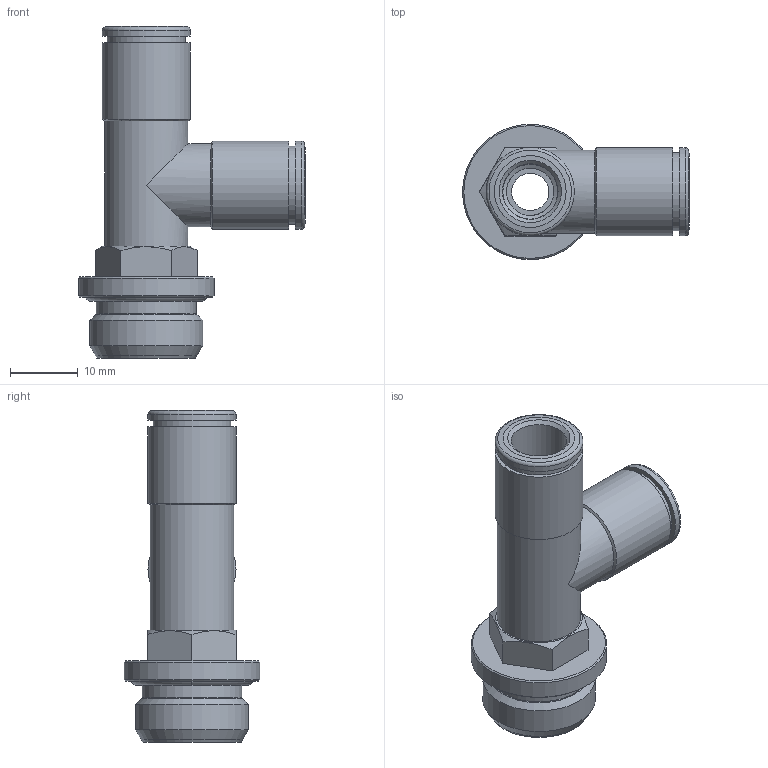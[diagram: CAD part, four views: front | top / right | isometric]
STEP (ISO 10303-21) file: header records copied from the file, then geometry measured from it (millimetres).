
FILE_DESCRIPTION(('Bauteilbeschreibung','HiCAD-Model','HiCAD-STEP-TRANSLATION','Bauteilbeschreibung'),'2;1');
FILE_NAME('B:/ABGLEICH/ZEICHNUNGEN/STEP FÜR INTERNET/STEP/IPSO 021/202107_IPSO_021_8_3-8.STP','2012-02-27T13:32:37+00:00',('Konstrukteur'),('Konstrukteur Firma GmbH'),' HiCAD neXt 2008, Step 3.1.1401.2J ','HiCAD neXt 2008','confidential');
FILE_SCHEMA(('AUTOMOTIVE_DESIGN { 1 2 10303 214 0 1 1 1 }'));
Length unit declared in the file: millimetre
Products named in the file (8): A02107_IPSO_021_8_3_8; OR 14X1_78; A14605_N2_GEW__3_8; A146050N20GEW00308; G 3_8; DR8_1_NEU; DR8010NEU; R202105_N2
Assembly tree (7 placements, depth 3):
  A02107_IPSO_021_8_3_8
    OR 14X1_78
    A14605_N2_GEW__3_8
    A146050N20GEW00308
      G 3_8
    DR8_1_NEU
    DR8010NEU
    R202105_N2
Bounding box: 33.5 x 20 x 49 mm (x, y, z)
Volume: 5599.5 mm3; surface area: 7773.9 mm2
Topology: 6 solids, 6 shells, 96 faces, 201 edges, 122 vertices
Faces by surface type: cylinder 32, cone 31, plane 25, torus 8
Full cylindrical faces by diameter (mm): 5.5 x1, 7 x2, 8.1 x2, 8.2 x2, 9 x2, 10.1 x4, 11 x3, 11.5 x2, 11.6 x2, 12.3 x2, 13 x4, 14.75 x1, 14.95 x2, 16.662 x1, 20 x1
Entity records: 3025 total; most frequent: CARTESIAN_POINT 537, DIRECTION 424, ORIENTED_EDGE 234, AXIS2_PLACEMENT_3D 205, EDGE_LOOP 180, EDGE_CURVE 117, COLOUR_RGB 114, PRESENTATION_STYLE_ASSIGNMENT 114
